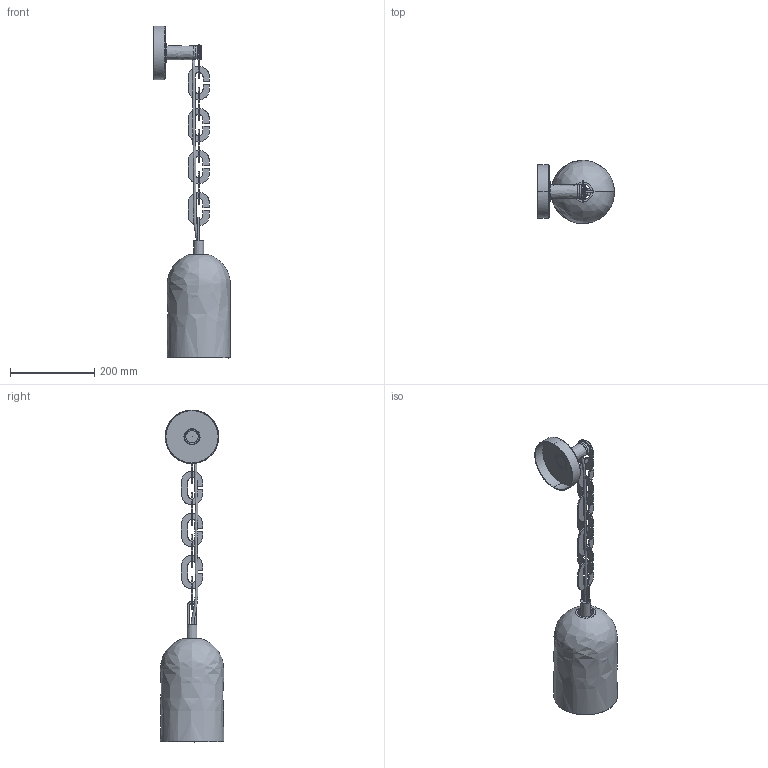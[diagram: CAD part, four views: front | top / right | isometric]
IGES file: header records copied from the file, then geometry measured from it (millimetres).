
Global section: file name: /Users/danielszollosi/Documents/SkLO/Sklo.com/3D models/WEB 3D Models/SkLO_LT334_DomeSconce_3D.igs; native system: Rhinoceros ( Dec  3 2024 ); preprocessor: Trout Lake IGES 012 Dec  3 2024; date: 250314.183906; units: millimetre
Bounding box: 182.02 x 150 x 787.3 mm (x, y, z)
Surface area: 397151.5 mm2 (no closed solid volume)
Topology: 0 solids, 0 shells, 373 faces, 9349 edges, 9297 vertices
Faces by surface type: bspline 373
